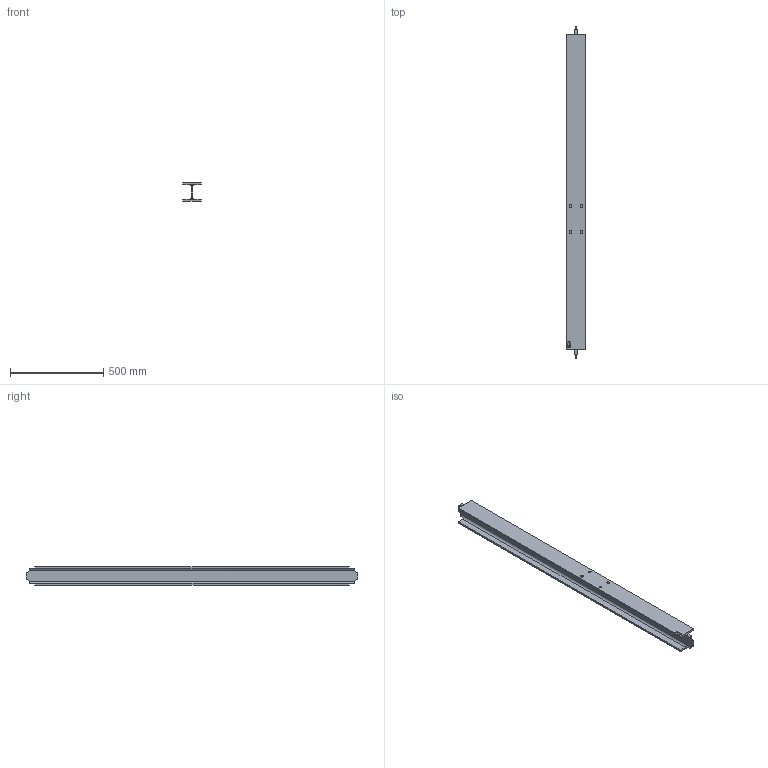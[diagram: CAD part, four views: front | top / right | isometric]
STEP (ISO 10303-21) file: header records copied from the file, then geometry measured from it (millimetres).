
FILE_DESCRIPTION (( 'STEP AP214' ), '1' );
FILE_NAME ('CCJ029-REP.014 - POUTRE A4-B5.STEP', '2025-10-31T14:35:36', ( '' ), ( '' ), 'SwSTEP 2.0', 'SolidWorks 2021', '' );
FILE_SCHEMA (( 'AUTOMOTIVE_DESIGN' ));
Length unit declared in the file: millimetre
Products named in the file (1): CCJ029-REP.014 - POUTRE A4-B5
Bounding box: 100 x 1780 x 100 mm (x, y, z)
Volume: 4422259 mm3; surface area: 976710.2 mm2
Topology: 1 solids, 1 shells, 71 faces, 192 edges, 128 vertices
Faces by surface type: plane 46, cylinder 16, bspline 9
Entity records: 3118 total; most frequent: CARTESIAN_POINT 1321, ORIENTED_EDGE 384, DIRECTION 324, EDGE_CURVE 192, VECTOR 134, LINE 134, VERTEX_POINT 128, AXIS2_PLACEMENT_3D 95
